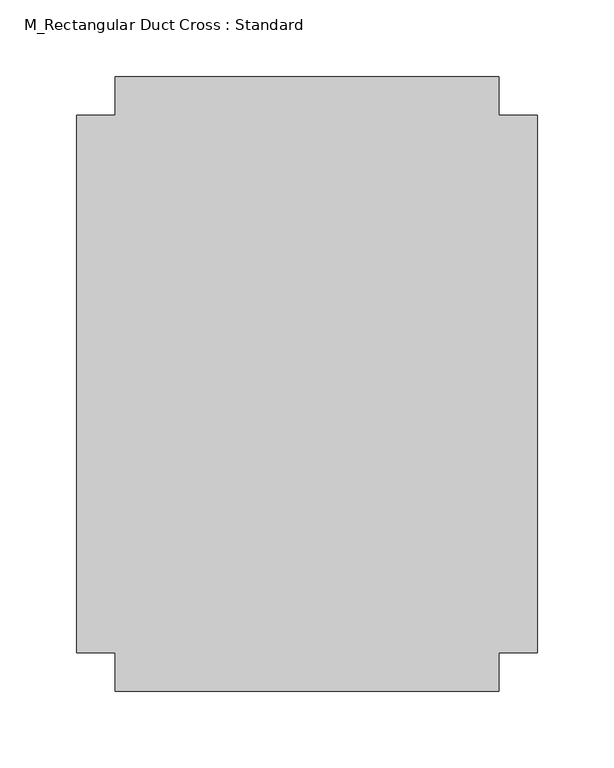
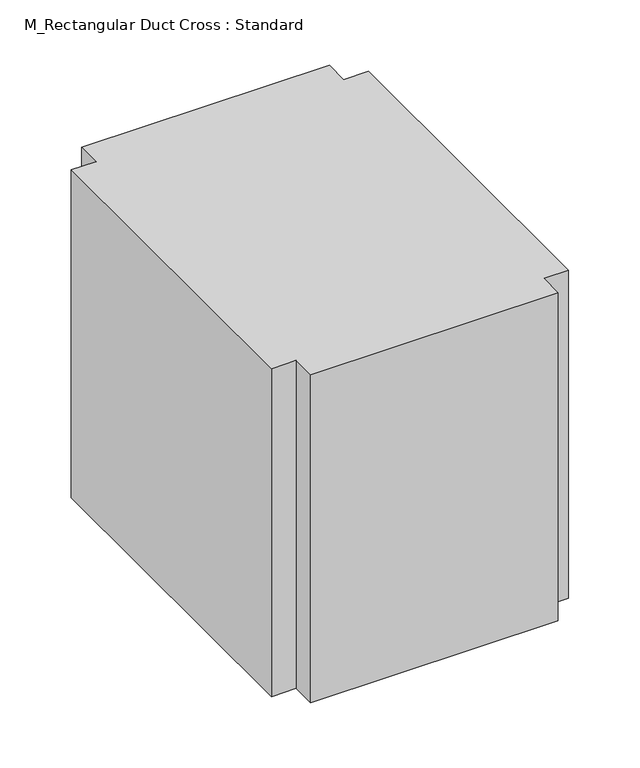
"""IFC4 building model written with IfcOpenShell, lengths in millimetres: duct fitting geometry, M_Rectangular Duct Cross : Standard."""

from ifc_helpers import new_model, si_unit, frame, origin, place, context, project, spatial, polyline, outline, extrude, source, transform, mapped, element, save


def m_rectangular_duct_cross_standard_bcfa0da6(model_context):
    return source(origin(), model_context, "Body", "SweptSolid", [
        extrude(outline(polyline([(-125.0, 200.0), (125.0, 200.0), (125.0, 175.0), (150.0, 175.0), (150.0, -175.0), (125.0, -175.0), (125.0, -200.0), (-125.0, -200.0), (-125.0, -175.0), (-150.0, -175.0), (-150.0, 175.0), (-125.0, 175.0), (-125.0, 200.0)])), frame((0.0, 0.0, -175.0), z_axis=(0.0, 0.0, 1.0), x_axis=(1.0, 0.0, 0.0)), (0.0, 0.0, 1.0), 350.0),
        extrude(outline(polyline([(-125.0, 200.0), (125.0, 200.0), (125.0, 175.0), (150.0, 175.0), (150.0, -175.0), (125.0, -175.0), (125.0, -200.0), (-125.0, -200.0), (-125.0, -175.0), (-150.0, -175.0), (-150.0, 175.0), (-125.0, 175.0), (-125.0, 200.0)])), frame((0.0, 0.0, -175.0), z_axis=(0.0, 0.0, 1.0), x_axis=(1.0, 0.0, 0.0)), (0.0, 0.0, 1.0), 350.0),
        extrude(outline(polyline([(125.0, -200.0), (-125.0, -200.0), (-125.0, -175.0), (-150.0, -175.0), (-150.0, 175.0), (-125.0, 175.0), (-125.0, 200.0), (125.0, 200.0), (125.0, 175.0), (150.0, 175.0), (150.0, -175.0), (125.0, -175.0), (125.0, -200.0)])), frame((0.0, 0.0, -175.0), z_axis=(0.0, 0.0, 1.0), x_axis=(1.0, 0.0, 0.0)), (0.0, 0.0, 1.0), 350.0),
    ])


if __name__ == "__main__":
    model = new_model("IFC4")
    model_context = context("Model", 3, world=origin())
    ifc_project = project(units=[si_unit("LENGTHUNIT", "METRE", prefix="MILLI")], contexts=[model_context])
    site = spatial("IfcSite", under=ifc_project)
    building = spatial("IfcBuilding", under=site)
    placement = place(None, origin())
    m_rectangular_duct_cross_standard_shape = m_rectangular_duct_cross_standard_bcfa0da6(model_context)
    element("IfcDuctFitting", 1, ObjectType="M_Rectangular Duct Cross : Standard", at=placement, inside=building, context=model_context, shape_type="MappedRepresentation", body=[
        mapped(m_rectangular_duct_cross_standard_shape, transform((0.0, 0.0, 0.0), x_axis=(1.0, 0.0, 0.0), y_axis=(0.0, 1.0, 0.0), z_axis=(0.0, 0.0, 1.0))),
    ])
    save(model, "model.ifc")
